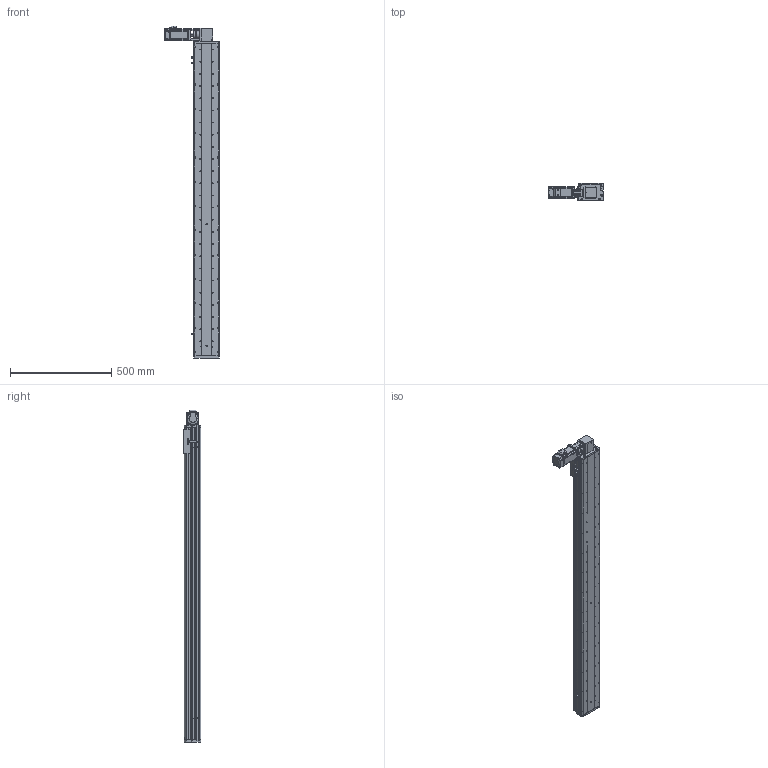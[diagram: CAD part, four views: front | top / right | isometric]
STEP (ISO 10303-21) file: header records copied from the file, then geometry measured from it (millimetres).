
FILE_DESCRIPTION (( 'STEP AP214' ), '1' );
FILE_NAME ('KSD125B-S1350-MRT-CM.STEP', '2017-08-07T07:43:48', ( '微软用户' ), ( '微软中国' ), 'SwSTEP 2.0', 'SolidWorks 2014', '' );
FILE_SCHEMA (( 'AUTOMOTIVE_DESIGN' ));
Length unit declared in the file: millimetre
Products named in the file (16): KSD125B-S1350-MRT-CM; KSD125模组1350行程同步带-防尘盖; 125模组1350行程同步带-底板; MHMD042G1CA_2_03; KSD125模组同步带-防撞垫2; CS-34X32-10X14; 100遵鎮湛假蚾啣1 ; 覜茼え68遵圉猾敕; U倰嫖萇假蚾璃; U倰嫖萇EEㄜSX672; KSD125模组同步带-防撞垫1; 100宽安装板同步带带电机座400W,86; 100宽马达安装板同步带右; 前端板-125宽模组同步带; 125模组同步带-尾端板1; KSD125模组同步带-滑动座1
Assembly tree (19 placements, depth 2):
  KSD125B-S1350-MRT-CM
    KSD125模组同步带-滑动座1
    125模组同步带-尾端板1
    前端板-125宽模组同步带
    100宽马达安装板同步带右
    100宽安装板同步带带电机座400W,86
    KSD125模组同步带-防撞垫1
    U倰嫖萇EEㄜSX672  x3
    U倰嫖萇假蚾璃  x3
    覜茼え68遵圉猾敕
    100遵鎮湛假蚾啣1 
    CS-34X32-10X14
    KSD125模组同步带-防撞垫2
    MHMD042G1CA_2_03
    125模组1350行程同步带-底板
    KSD125模组1350行程同步带-防尘盖
Bounding box: 269 x 86 x 1639 mm (x, y, z)
Volume: 4843946.4 mm3; surface area: 1582230.2 mm2
Topology: 18 solids, 21 shells, 1768 faces, 5080 edges, 3352 vertices
Faces by surface type: cylinder 953, plane 712, cone 81, bspline 22
Entity records: 62676 total; most frequent: CARTESIAN_POINT 12614, DIRECTION 9191, ORIENTED_EDGE 8680, EDGE_CURVE 4418, AXIS2_PLACEMENT_3D 3441, VERTEX_POINT 2944, VECTOR 2309, LINE 2309
